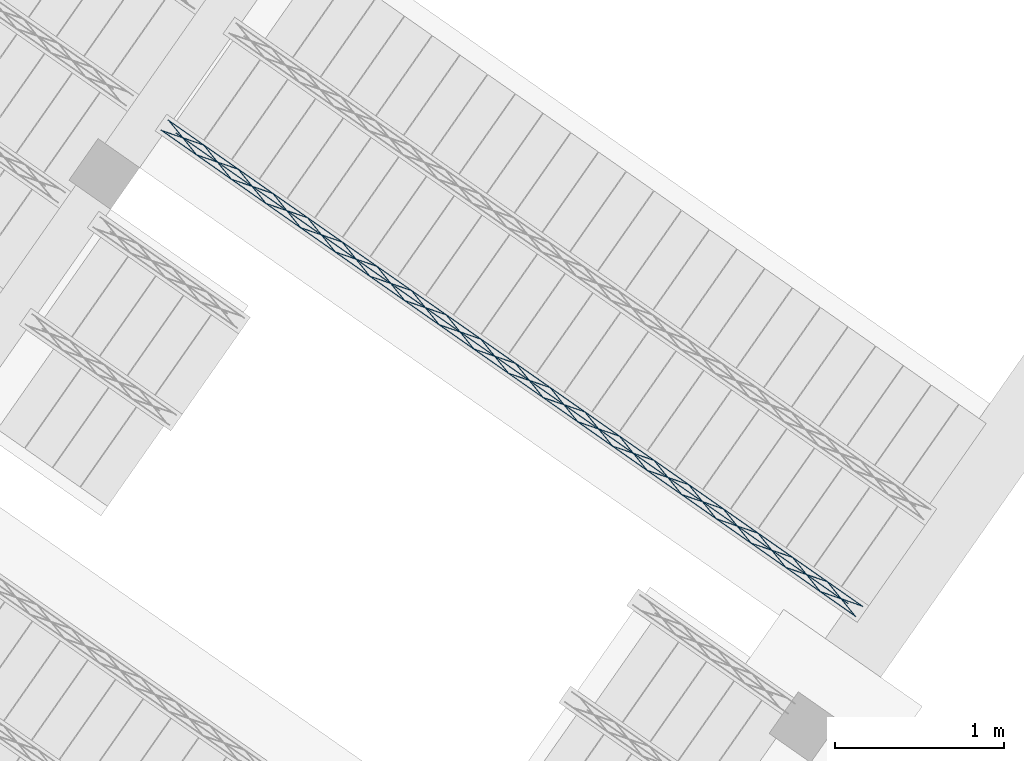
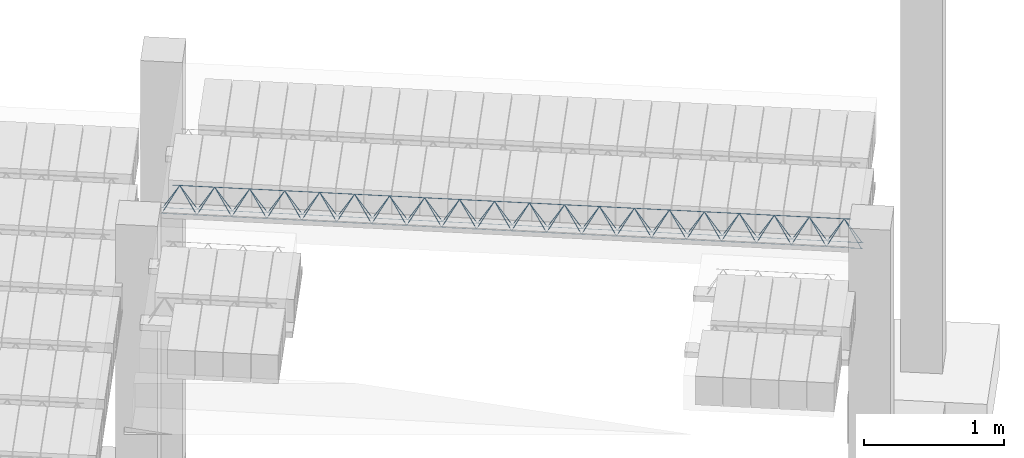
# One storey, part 46 of 80: 1 member.
"""IFC2X3 building model written with IfcOpenShell, lengths in metres."""

from ifc_helpers import new_model, entity, si_unit, converted_unit, derived_unit, direction, frame, origin, origin_2d_with_axis, place, context, subcontext, project, spatial, circle, extrude, type_object, element, save


model = new_model("IFC2X3")

# Units and contexts
model_context = context("Model", 3, precision=1e-05, world=origin(), true_north=direction((6.123031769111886e-17, 1.0)))
body_context = subcontext(model_context, "Body", "Model", "MODEL_VIEW")
ifc_project = project(units=[si_unit("LENGTHUNIT", "METRE"), si_unit("AREAUNIT", "SQUARE_METRE"), si_unit("VOLUMEUNIT", "CUBIC_METRE"), converted_unit("PLANEANGLEUNIT", "DEGREE", entity("IfcPlaneAngleMeasure", 0.017453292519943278), si_unit("PLANEANGLEUNIT", "RADIAN"), dimensions=[0, 0, 0, 0, 0, 0, 0]), si_unit("MASSUNIT", "GRAM", prefix="KILO"), derived_unit("MASSDENSITYUNIT", [(si_unit("MASSUNIT", "GRAM", prefix="KILO"), 1), (si_unit("LENGTHUNIT", "METRE"), -3)]), derived_unit("IONCONCENTRATIONUNIT", [(si_unit("MASSUNIT", "GRAM", prefix="KILO"), 1), (si_unit("LENGTHUNIT", "METRE"), -3)]), derived_unit("MOMENTOFINERTIAUNIT", [(si_unit("LENGTHUNIT", "METRE"), 4)]), si_unit("TIMEUNIT", "SECOND"), si_unit("FREQUENCYUNIT", "HERTZ"), si_unit("THERMODYNAMICTEMPERATUREUNIT", "DEGREE_CELSIUS"), derived_unit("THERMALTRANSMITTANCEUNIT", [(si_unit("MASSUNIT", "GRAM", prefix="KILO"), 1), (si_unit("THERMODYNAMICTEMPERATUREUNIT", "KELVIN"), -1), (si_unit("TIMEUNIT", "SECOND"), -3)]), derived_unit("THERMALCONDUCTANCEUNIT", [(si_unit("MASSUNIT", "GRAM", prefix="KILO"), 1), (si_unit("THERMODYNAMICTEMPERATUREUNIT", "KELVIN"), -1), (si_unit("TIMEUNIT", "SECOND"), -3), (si_unit("LENGTHUNIT", "METRE"), 1)]), derived_unit("VOLUMETRICFLOWRATEUNIT", [(si_unit("LENGTHUNIT", "METRE", prefix="DECI"), 3), (si_unit("TIMEUNIT", "SECOND"), -1)]), derived_unit("MASSFLOWRATEUNIT", [(si_unit("MASSUNIT", "GRAM", prefix="KILO"), 1), (si_unit("TIMEUNIT", "SECOND"), -1)]), derived_unit("ROTATIONALFREQUENCYUNIT", [(si_unit("TIMEUNIT", "SECOND"), -1)]), si_unit("ELECTRICCURRENTUNIT", "AMPERE"), si_unit("ELECTRICVOLTAGEUNIT", "VOLT"), si_unit("POWERUNIT", "WATT"), si_unit("FORCEUNIT", "NEWTON", prefix="KILO"), si_unit("ILLUMINANCEUNIT", "LUX"), si_unit("LUMINOUSFLUXUNIT", "LUMEN"), si_unit("LUMINOUSINTENSITYUNIT", "CANDELA"), si_unit("ENERGYUNIT", "JOULE"), derived_unit("USERDEFINED", [(si_unit("MASSUNIT", "GRAM", prefix="KILO"), -1), (si_unit("LENGTHUNIT", "METRE"), -2), (si_unit("TIMEUNIT", "SECOND"), 3), (si_unit("LUMINOUSFLUXUNIT", "LUMEN"), 1)]), derived_unit("USERDEFINED", [(si_unit("MASSUNIT", "GRAM", prefix="KILO"), 1), (si_unit("TIMEUNIT", "SECOND"), -3), (si_unit("LENGTHUNIT", "METRE"), 3), (si_unit("ELECTRICCURRENTUNIT", "AMPERE"), -2)]), derived_unit("SOUNDPOWERUNIT", [(si_unit("MASSUNIT", "GRAM", prefix="KILO"), 1), (si_unit("TIMEUNIT", "SECOND"), -3), (si_unit("LENGTHUNIT", "METRE"), 2)]), derived_unit("SOUNDPRESSUREUNIT", [(si_unit("MASSUNIT", "GRAM", prefix="KILO"), 1), (si_unit("LENGTHUNIT", "METRE"), -1), (si_unit("TIMEUNIT", "SECOND"), -2)]), derived_unit("LINEARVELOCITYUNIT", [(si_unit("LENGTHUNIT", "METRE"), 1), (si_unit("TIMEUNIT", "SECOND"), -1)]), si_unit("PRESSUREUNIT", "PASCAL"), derived_unit("USERDEFINED", [(si_unit("MASSUNIT", "GRAM", prefix="KILO"), 1), (si_unit("LENGTHUNIT", "METRE"), -2), (si_unit("TIMEUNIT", "SECOND"), -2)]), derived_unit("LINEARFORCEUNIT", [(si_unit("MASSUNIT", "GRAM", prefix="KILO"), 1), (si_unit("TIMEUNIT", "SECOND"), -2)]), derived_unit("PLANARFORCEUNIT", [(si_unit("MASSUNIT", "GRAM", prefix="KILO"), 1), (si_unit("LENGTHUNIT", "METRE"), -1), (si_unit("TIMEUNIT", "SECOND"), -2)]), derived_unit("SPECIFICHEATCAPACITYUNIT", [(si_unit("THERMODYNAMICTEMPERATUREUNIT", "KELVIN"), -1), (si_unit("LENGTHUNIT", "METRE"), 2), (si_unit("TIMEUNIT", "SECOND"), -2)]), derived_unit("HEATFLUXDENSITYUNIT", [(si_unit("MASSUNIT", "GRAM", prefix="KILO"), 1), (si_unit("TIMEUNIT", "SECOND"), -3)]), derived_unit("HEATINGVALUEUNIT", [(si_unit("LENGTHUNIT", "METRE"), 2), (si_unit("TIMEUNIT", "SECOND"), -2)]), derived_unit("VAPORPERMEABILITYUNIT", [(si_unit("LENGTHUNIT", "METRE"), -1), (si_unit("TIMEUNIT", "SECOND"), 1)]), derived_unit("DYNAMICVISCOSITYUNIT", [(si_unit("MASSUNIT", "GRAM", prefix="KILO"), 1), (si_unit("TIMEUNIT", "SECOND"), -1), (si_unit("LENGTHUNIT", "METRE"), -1)]), derived_unit("THERMALEXPANSIONCOEFFICIENTUNIT", [(si_unit("THERMODYNAMICTEMPERATUREUNIT", "KELVIN"), -1)]), derived_unit("MODULUSOFELASTICITYUNIT", [(si_unit("MASSUNIT", "GRAM", prefix="KILO"), 1), (si_unit("LENGTHUNIT", "METRE"), -1), (si_unit("TIMEUNIT", "SECOND"), -2)]), derived_unit("ISOTHERMALMOISTURECAPACITYUNIT", [(si_unit("MASSUNIT", "GRAM", prefix="KILO"), -1), (si_unit("LENGTHUNIT", "METRE"), 3)]), derived_unit("MOISTUREDIFFUSIVITYUNIT", [(si_unit("TIMEUNIT", "SECOND"), -1), (si_unit("LENGTHUNIT", "METRE"), 2)]), derived_unit("MASSPERLENGTHUNIT", [(si_unit("MASSUNIT", "GRAM", prefix="KILO"), 1), (si_unit("LENGTHUNIT", "METRE"), -1)]), derived_unit("THERMALRESISTANCEUNIT", [(si_unit("MASSUNIT", "GRAM", prefix="KILO"), -1), (si_unit("TIMEUNIT", "SECOND"), 3), (si_unit("THERMODYNAMICTEMPERATUREUNIT", "KELVIN"), 1)]), derived_unit("ACCELERATIONUNIT", [(si_unit("LENGTHUNIT", "METRE"), 1), (si_unit("TIMEUNIT", "SECOND"), -2)]), derived_unit("ANGULARVELOCITYUNIT", [(si_unit("TIMEUNIT", "SECOND"), -1), (si_unit("PLANEANGLEUNIT", "RADIAN"), 1)]), derived_unit("LINEARSTIFFNESSUNIT", [(si_unit("MASSUNIT", "GRAM", prefix="KILO"), 1), (si_unit("TIMEUNIT", "SECOND"), -2)]), derived_unit("WARPINGCONSTANTUNIT", [(si_unit("LENGTHUNIT", "METRE"), 6)]), derived_unit("LINEARMOMENTUNIT", [(si_unit("MASSUNIT", "GRAM", prefix="KILO"), 1), (si_unit("LENGTHUNIT", "METRE"), 1), (si_unit("TIMEUNIT", "SECOND"), -2)]), derived_unit("TORQUEUNIT", [(si_unit("MASSUNIT", "GRAM", prefix="KILO"), 1), (si_unit("LENGTHUNIT", "METRE"), 2), (si_unit("TIMEUNIT", "SECOND"), -2)])], contexts=[model_context])

# Site, building, storey
site_placement = place(None, origin())
site = spatial("IfcSite", under=ifc_project, at=site_placement, Name="Default", CompositionType="ELEMENT")
building_placement = place(site_placement, origin())
building = spatial("IfcBuilding", under=site, at=building_placement, CompositionType="ELEMENT")
storey_placement = place(building_placement, frame((0.0, 0.0, 95.94)))
storey = spatial("IfcBuildingStorey", under=building, at=storey_placement, Name="PB", CompositionType="ELEMENT", Elevation=95.94)

# Member
member_type = type_object("IfcMemberType", Name="Celosía (Vigueta 1 - Paño 15)", PredefinedType="NOTDEFINED")
member_placement = place(storey_placement, origin())
element("IfcMember", 1, at=member_placement, inside=storey, type_object=member_type, Name="Celosía (Vigueta 1 - Paño 15)", context=body_context, shape_type="SweptSolid", body=[
    extrude(circle(Radius=0.0025, at=origin_2d_with_axis()), frame((6.163693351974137, 7.787239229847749, 3.3049999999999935), z_axis=(0.8191520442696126, -0.5735764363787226, 0.0), x_axis=(-0.5735764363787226, -0.8191520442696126, 0.0)), (0.0, 0.0, 1.0), 5.017554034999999),
    extrude(circle(Radius=0.0025, at=origin_2d_with_axis()), frame((10.225855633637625, 4.986830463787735, 3.5299999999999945), z_axis=(-0.8191520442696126, 0.5735764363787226, 0.0), x_axis=(-0.5735764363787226, -0.8191520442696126, 0.0)), (0.0, 0.0, 1.0), 4.849999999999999),
    extrude(circle(Radius=0.0025, at=origin_2d_with_axis()), frame((10.26664328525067, 4.914322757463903, 3.3049999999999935), z_axis=(-0.3145304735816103, 0.389334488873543, 0.8657304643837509), x_axis=(-0.7778747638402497, -0.6284193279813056, 0.0)), (0.0, 0.0, 1.0), 0.2598961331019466),
    extrude(circle(Radius=0.0025, at=origin_2d_with_axis()), frame((10.061855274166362, 5.057716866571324, 3.3049999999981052), z_axis=(0.47343050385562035, -0.1624017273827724, 0.8657304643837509), x_axis=(-0.3244721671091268, -0.9458952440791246, 0.0)), (0.0, 0.0, 1.0), 0.25989613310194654),
    extrude(circle(Radius=0.0025, at=origin_2d_with_axis()), frame((10.061855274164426, 5.057716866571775, 3.3049999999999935), z_axis=(-0.3145304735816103, 0.389334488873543, 0.8657304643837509), x_axis=(-0.7778747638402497, -0.6284193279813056, 0.0)), (0.0, 0.0, 1.0), 0.2598961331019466),
    extrude(circle(Radius=0.0025, at=origin_2d_with_axis()), frame((9.857067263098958, 5.201110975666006, 3.3049999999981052), z_axis=(0.47343050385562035, -0.1624017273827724, 0.8657304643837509), x_axis=(-0.3244721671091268, -0.9458952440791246, 0.0)), (0.0, 0.0, 1.0), 0.25989613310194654),
    extrude(circle(Radius=0.0025, at=origin_2d_with_axis()), frame((9.857067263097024, 5.201110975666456, 3.3049999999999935), z_axis=(-0.3145304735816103, 0.389334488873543, 0.8657304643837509), x_axis=(-0.7778747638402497, -0.6284193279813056, 0.0)), (0.0, 0.0, 1.0), 0.2598961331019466),
    extrude(circle(Radius=0.0025, at=origin_2d_with_axis()), frame((9.652279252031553, 5.344505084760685, 3.3049999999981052), z_axis=(0.47343050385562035, -0.1624017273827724, 0.8657304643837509), x_axis=(-0.3244721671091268, -0.9458952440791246, 0.0)), (0.0, 0.0, 1.0), 0.25989613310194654),
    extrude(circle(Radius=0.0025, at=origin_2d_with_axis()), frame((9.65227925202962, 5.3445050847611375, 3.3049999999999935), z_axis=(-0.3145304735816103, 0.389334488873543, 0.8657304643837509), x_axis=(-0.7778747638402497, -0.6284193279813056, 0.0)), (0.0, 0.0, 1.0), 0.2598961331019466),
    extrude(circle(Radius=0.0025, at=origin_2d_with_axis()), frame((9.447491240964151, 5.487899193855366, 3.3049999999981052), z_axis=(0.47343050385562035, -0.1624017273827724, 0.8657304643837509), x_axis=(-0.3244721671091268, -0.9458952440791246, 0.0)), (0.0, 0.0, 1.0), 0.25989613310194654),
    extrude(circle(Radius=0.0025, at=origin_2d_with_axis()), frame((9.447491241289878, 5.4878991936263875, 3.3049999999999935), z_axis=(-0.3145304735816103, 0.389334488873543, 0.8657304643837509), x_axis=(-0.7778747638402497, -0.6284193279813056, 0.0)), (0.0, 0.0, 1.0), 0.2598961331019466),
    extrude(circle(Radius=0.0025, at=origin_2d_with_axis()), frame((9.242703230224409, 5.631293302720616, 3.3049999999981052), z_axis=(0.47343050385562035, -0.1624017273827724, 0.8657304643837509), x_axis=(-0.3244721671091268, -0.9458952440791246, 0.0)), (0.0, 0.0, 1.0), 0.25989613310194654),
    extrude(circle(Radius=0.0025, at=origin_2d_with_axis()), frame((9.242703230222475, 5.631293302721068, 3.3049999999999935), z_axis=(-0.3145304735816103, 0.389334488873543, 0.8657304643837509), x_axis=(-0.7778747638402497, -0.6284193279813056, 0.0)), (0.0, 0.0, 1.0), 0.2598961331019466),
    extrude(circle(Radius=0.0025, at=origin_2d_with_axis()), frame((9.037915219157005, 5.7746874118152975, 3.3049999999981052), z_axis=(0.47343050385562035, -0.1624017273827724, 0.8657304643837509), x_axis=(-0.3244721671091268, -0.9458952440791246, 0.0)), (0.0, 0.0, 1.0), 0.25989613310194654),
    extrude(circle(Radius=0.0025, at=origin_2d_with_axis()), frame((9.037915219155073, 5.774687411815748, 3.3049999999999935), z_axis=(-0.3145304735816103, 0.389334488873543, 0.8657304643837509), x_axis=(-0.7778747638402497, -0.6284193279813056, 0.0)), (0.0, 0.0, 1.0), 0.2598961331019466),
    extrude(circle(Radius=0.0025, at=origin_2d_with_axis()), frame((8.833127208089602, 5.918081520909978, 3.3049999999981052), z_axis=(0.47343050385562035, -0.1624017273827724, 0.8657304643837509), x_axis=(-0.3244721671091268, -0.9458952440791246, 0.0)), (0.0, 0.0, 1.0), 0.25989613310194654),
    extrude(circle(Radius=0.0025, at=origin_2d_with_axis()), frame((8.833127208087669, 5.918081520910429, 3.3049999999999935), z_axis=(-0.3145304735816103, 0.389334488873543, 0.8657304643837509), x_axis=(-0.7778747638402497, -0.6284193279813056, 0.0)), (0.0, 0.0, 1.0), 0.2598961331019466),
    extrude(circle(Radius=0.0025, at=origin_2d_with_axis()), frame((8.6283391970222, 6.061475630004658, 3.3049999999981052), z_axis=(0.47343050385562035, -0.1624017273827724, 0.8657304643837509), x_axis=(-0.3244721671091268, -0.9458952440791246, 0.0)), (0.0, 0.0, 1.0), 0.25989613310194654),
    extrude(circle(Radius=0.0025, at=origin_2d_with_axis()), frame((8.628339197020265, 6.06147563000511, 3.3049999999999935), z_axis=(-0.3145304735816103, 0.389334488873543, 0.8657304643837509), x_axis=(-0.7778747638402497, -0.6284193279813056, 0.0)), (0.0, 0.0, 1.0), 0.2598961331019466),
    extrude(circle(Radius=0.0025, at=origin_2d_with_axis()), frame((8.423551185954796, 6.204869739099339, 3.3049999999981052), z_axis=(0.47343050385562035, -0.1624017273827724, 0.8657304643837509), x_axis=(-0.3244721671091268, -0.9458952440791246, 0.0)), (0.0, 0.0, 1.0), 0.25989613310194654),
    extrude(circle(Radius=0.0025, at=origin_2d_with_axis()), frame((8.423551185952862, 6.20486973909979, 3.3049999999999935), z_axis=(-0.3145304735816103, 0.389334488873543, 0.8657304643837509), x_axis=(-0.7778747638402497, -0.6284193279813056, 0.0)), (0.0, 0.0, 1.0), 0.2598961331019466),
    extrude(circle(Radius=0.0025, at=origin_2d_with_axis()), frame((8.218763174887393, 6.34826384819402, 3.3049999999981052), z_axis=(0.47343050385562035, -0.1624017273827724, 0.8657304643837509), x_axis=(-0.3244721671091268, -0.9458952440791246, 0.0)), (0.0, 0.0, 1.0), 0.25989613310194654),
    extrude(circle(Radius=0.0025, at=origin_2d_with_axis()), frame((8.21876317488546, 6.348263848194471, 3.3049999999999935), z_axis=(-0.3145304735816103, 0.389334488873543, 0.8657304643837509), x_axis=(-0.7778747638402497, -0.6284193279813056, 0.0)), (0.0, 0.0, 1.0), 0.2598961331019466),
    extrude(circle(Radius=0.0025, at=origin_2d_with_axis()), frame((8.013975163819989, 6.4916579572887, 3.3049999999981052), z_axis=(0.47343050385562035, -0.1624017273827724, 0.8657304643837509), x_axis=(-0.3244721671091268, -0.9458952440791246, 0.0)), (0.0, 0.0, 1.0), 0.25989613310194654),
    extrude(circle(Radius=0.0025, at=origin_2d_with_axis()), frame((8.013975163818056, 6.491657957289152, 3.3049999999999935), z_axis=(-0.3145304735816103, 0.389334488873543, 0.8657304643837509), x_axis=(-0.7778747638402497, -0.6284193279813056, 0.0)), (0.0, 0.0, 1.0), 0.2598961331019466),
    extrude(circle(Radius=0.0025, at=origin_2d_with_axis()), frame((7.809187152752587, 6.6350520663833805, 3.3049999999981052), z_axis=(0.47343050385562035, -0.1624017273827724, 0.8657304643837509), x_axis=(-0.3244721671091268, -0.9458952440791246, 0.0)), (0.0, 0.0, 1.0), 0.25989613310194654),
    extrude(circle(Radius=0.0025, at=origin_2d_with_axis()), frame((7.809187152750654, 6.635052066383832, 3.3049999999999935), z_axis=(-0.3145304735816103, 0.389334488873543, 0.8657304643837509), x_axis=(-0.7778747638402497, -0.6284193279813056, 0.0)), (0.0, 0.0, 1.0), 0.2598961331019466),
    extrude(circle(Radius=0.0025, at=origin_2d_with_axis()), frame((7.604399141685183, 6.778446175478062, 3.3049999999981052), z_axis=(0.47343050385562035, -0.1624017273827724, 0.8657304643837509), x_axis=(-0.3244721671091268, -0.9458952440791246, 0.0)), (0.0, 0.0, 1.0), 0.25989613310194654),
    extrude(circle(Radius=0.0025, at=origin_2d_with_axis()), frame((7.60439914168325, 6.778446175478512, 3.3049999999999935), z_axis=(-0.3145304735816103, 0.389334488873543, 0.8657304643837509), x_axis=(-0.7778747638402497, -0.6284193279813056, 0.0)), (0.0, 0.0, 1.0), 0.2598961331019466),
    extrude(circle(Radius=0.0025, at=origin_2d_with_axis()), frame((7.399611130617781, 6.921840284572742, 3.3049999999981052), z_axis=(0.47343050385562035, -0.1624017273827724, 0.8657304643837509), x_axis=(-0.3244721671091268, -0.9458952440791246, 0.0)), (0.0, 0.0, 1.0), 0.25989613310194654),
    extrude(circle(Radius=0.0025, at=origin_2d_with_axis()), frame((7.399611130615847, 6.921840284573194, 3.3049999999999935), z_axis=(-0.3145304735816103, 0.389334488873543, 0.8657304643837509), x_axis=(-0.7778747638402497, -0.6284193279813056, 0.0)), (0.0, 0.0, 1.0), 0.2598961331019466),
    extrude(circle(Radius=0.0025, at=origin_2d_with_axis()), frame((7.194823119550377, 7.0652343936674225, 3.3049999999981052), z_axis=(0.47343050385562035, -0.1624017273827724, 0.8657304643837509), x_axis=(-0.3244721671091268, -0.9458952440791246, 0.0)), (0.0, 0.0, 1.0), 0.25989613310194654),
    extrude(circle(Radius=0.0025, at=origin_2d_with_axis()), frame((7.1948231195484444, 7.065234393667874, 3.3049999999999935), z_axis=(-0.3145304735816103, 0.389334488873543, 0.8657304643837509), x_axis=(-0.7778747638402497, -0.6284193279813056, 0.0)), (0.0, 0.0, 1.0), 0.2598961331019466),
    extrude(circle(Radius=0.0025, at=origin_2d_with_axis()), frame((6.990035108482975, 7.208628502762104, 3.3049999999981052), z_axis=(0.47343050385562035, -0.1624017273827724, 0.8657304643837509), x_axis=(-0.3244721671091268, -0.9458952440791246, 0.0)), (0.0, 0.0, 1.0), 0.25989613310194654),
    extrude(circle(Radius=0.0025, at=origin_2d_with_axis()), frame((6.99003510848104, 7.208628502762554, 3.3049999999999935), z_axis=(-0.3145304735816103, 0.389334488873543, 0.8657304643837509), x_axis=(-0.7778747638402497, -0.6284193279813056, 0.0)), (0.0, 0.0, 1.0), 0.2598961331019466),
    extrude(circle(Radius=0.0025, at=origin_2d_with_axis()), frame((6.785247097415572, 7.352022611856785, 3.3049999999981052), z_axis=(0.47343050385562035, -0.1624017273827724, 0.8657304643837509), x_axis=(-0.3244721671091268, -0.9458952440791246, 0.0)), (0.0, 0.0, 1.0), 0.25989613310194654),
    extrude(circle(Radius=0.0025, at=origin_2d_with_axis()), frame((6.785247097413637, 7.352022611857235, 3.3049999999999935), z_axis=(-0.3145304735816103, 0.389334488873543, 0.8657304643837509), x_axis=(-0.7778747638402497, -0.6284193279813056, 0.0)), (0.0, 0.0, 1.0), 0.2598961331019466),
    extrude(circle(Radius=0.0025, at=origin_2d_with_axis()), frame((6.580459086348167, 7.495416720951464, 3.3049999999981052), z_axis=(0.47343050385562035, -0.1624017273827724, 0.8657304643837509), x_axis=(-0.3244721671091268, -0.9458952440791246, 0.0)), (0.0, 0.0, 1.0), 0.25989613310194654),
    extrude(circle(Radius=0.0025, at=origin_2d_with_axis()), frame((6.580459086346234, 7.4954167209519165, 3.3049999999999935), z_axis=(-0.3145304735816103, 0.389334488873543, 0.8657304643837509), x_axis=(-0.7778747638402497, -0.6284193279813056, 0.0)), (0.0, 0.0, 1.0), 0.2598961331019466),
    extrude(circle(Radius=0.0025, at=origin_2d_with_axis()), frame((6.375671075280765, 7.638810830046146, 3.3049999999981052), z_axis=(0.47343050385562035, -0.1624017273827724, 0.8657304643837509), x_axis=(-0.3244721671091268, -0.9458952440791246, 0.0)), (0.0, 0.0, 1.0), 0.25989613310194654),
    extrude(circle(Radius=0.0025, at=origin_2d_with_axis()), frame((6.375671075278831, 7.638810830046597, 3.3049999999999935), z_axis=(-0.3145304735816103, 0.389334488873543, 0.8657304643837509), x_axis=(-0.7778747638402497, -0.6284193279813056, 0.0)), (0.0, 0.0, 1.0), 0.2598961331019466),
    extrude(circle(Radius=0.0025, at=origin_2d_with_axis()), frame((6.170883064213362, 7.782204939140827, 3.3049999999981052), z_axis=(0.47343050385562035, -0.1624017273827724, 0.8657304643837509), x_axis=(-0.3244721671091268, -0.9458952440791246, 0.0)), (0.0, 0.0, 1.0), 0.25989613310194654),
    extrude(circle(Radius=0.0025, at=origin_2d_with_axis()), frame((10.315130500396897, 4.968267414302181, 3.3049999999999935), z_axis=(-0.8191520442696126, 0.5735764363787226, 0.0), x_axis=(-0.5735764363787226, -0.8191520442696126, 0.0)), (0.0, 0.0, 1.0), 5.017554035),
    extrude(circle(Radius=0.0025, at=origin_2d_with_axis()), frame((10.307940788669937, 4.973301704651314, 3.3049999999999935), z_axis=(-0.47343050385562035, 0.1624017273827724, 0.8657304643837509), x_axis=(-0.3244721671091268, -0.9458952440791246, 0.0)), (0.0, 0.0, 1.0), 0.25989613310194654),
    extrude(circle(Radius=0.0025, at=origin_2d_with_axis()), frame((10.103152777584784, 5.116695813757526, 3.3049999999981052), z_axis=(0.3145304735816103, -0.389334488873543, 0.8657304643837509), x_axis=(-0.7778747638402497, -0.6284193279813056, 0.0)), (0.0, 0.0, 1.0), 0.2598961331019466),
    extrude(circle(Radius=0.0025, at=origin_2d_with_axis()), frame((10.103152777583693, 5.116695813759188, 3.3049999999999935), z_axis=(-0.47343050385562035, 0.1624017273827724, 0.8657304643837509), x_axis=(-0.3244721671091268, -0.9458952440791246, 0.0)), (0.0, 0.0, 1.0), 0.25989613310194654),
    extrude(circle(Radius=0.0025, at=origin_2d_with_axis()), frame((9.898364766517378, 5.260089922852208, 3.3049999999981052), z_axis=(0.3145304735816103, -0.389334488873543, 0.8657304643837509), x_axis=(-0.7778747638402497, -0.6284193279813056, 0.0)), (0.0, 0.0, 1.0), 0.2598961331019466),
    extrude(circle(Radius=0.0025, at=origin_2d_with_axis()), frame((9.898364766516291, 5.260089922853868, 3.3049999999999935), z_axis=(-0.47343050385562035, 0.1624017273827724, 0.8657304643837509), x_axis=(-0.3244721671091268, -0.9458952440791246, 0.0)), (0.0, 0.0, 1.0), 0.25989613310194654),
    extrude(circle(Radius=0.0025, at=origin_2d_with_axis()), frame((9.693576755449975, 5.403484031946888, 3.3049999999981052), z_axis=(0.3145304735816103, -0.389334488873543, 0.8657304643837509), x_axis=(-0.7778747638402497, -0.6284193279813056, 0.0)), (0.0, 0.0, 1.0), 0.2598961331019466),
    extrude(circle(Radius=0.0025, at=origin_2d_with_axis()), frame((9.693576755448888, 5.403484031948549, 3.3049999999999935), z_axis=(-0.47343050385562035, 0.1624017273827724, 0.8657304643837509), x_axis=(-0.3244721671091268, -0.9458952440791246, 0.0)), (0.0, 0.0, 1.0), 0.25989613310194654),
    extrude(circle(Radius=0.0025, at=origin_2d_with_axis()), frame((9.488788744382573, 5.546878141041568, 3.3049999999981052), z_axis=(0.3145304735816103, -0.389334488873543, 0.8657304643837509), x_axis=(-0.7778747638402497, -0.6284193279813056, 0.0)), (0.0, 0.0, 1.0), 0.2598961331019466),
    extrude(circle(Radius=0.0025, at=origin_2d_with_axis()), frame((9.488788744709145, 5.546878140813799, 3.3049999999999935), z_axis=(-0.47343050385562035, 0.1624017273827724, 0.8657304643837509), x_axis=(-0.3244721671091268, -0.9458952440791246, 0.0)), (0.0, 0.0, 1.0), 0.25989613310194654),
    extrude(circle(Radius=0.0025, at=origin_2d_with_axis()), frame((9.28400073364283, 5.690272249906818, 3.3049999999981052), z_axis=(0.3145304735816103, -0.389334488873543, 0.8657304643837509), x_axis=(-0.7778747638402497, -0.6284193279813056, 0.0)), (0.0, 0.0, 1.0), 0.2598961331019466),
    extrude(circle(Radius=0.0025, at=origin_2d_with_axis()), frame((9.284000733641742, 5.69027224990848, 3.3049999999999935), z_axis=(-0.47343050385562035, 0.1624017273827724, 0.8657304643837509), x_axis=(-0.3244721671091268, -0.9458952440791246, 0.0)), (0.0, 0.0, 1.0), 0.25989613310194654),
    extrude(circle(Radius=0.0025, at=origin_2d_with_axis()), frame((9.079212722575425, 5.8336663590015, 3.3049999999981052), z_axis=(0.3145304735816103, -0.389334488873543, 0.8657304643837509), x_axis=(-0.7778747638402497, -0.6284193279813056, 0.0)), (0.0, 0.0, 1.0), 0.2598961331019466),
    extrude(circle(Radius=0.0025, at=origin_2d_with_axis()), frame((9.07921272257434, 5.83366635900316, 3.3049999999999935), z_axis=(-0.47343050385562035, 0.1624017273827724, 0.8657304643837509), x_axis=(-0.3244721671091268, -0.9458952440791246, 0.0)), (0.0, 0.0, 1.0), 0.25989613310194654),
    extrude(circle(Radius=0.0025, at=origin_2d_with_axis()), frame((8.874424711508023, 5.97706046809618, 3.3049999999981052), z_axis=(0.3145304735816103, -0.389334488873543, 0.8657304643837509), x_axis=(-0.7778747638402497, -0.6284193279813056, 0.0)), (0.0, 0.0, 1.0), 0.2598961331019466),
    extrude(circle(Radius=0.0025, at=origin_2d_with_axis()), frame((8.874424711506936, 5.977060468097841, 3.3049999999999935), z_axis=(-0.47343050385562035, 0.1624017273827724, 0.8657304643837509), x_axis=(-0.3244721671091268, -0.9458952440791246, 0.0)), (0.0, 0.0, 1.0), 0.25989613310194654),
    extrude(circle(Radius=0.0025, at=origin_2d_with_axis()), frame((8.66963670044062, 6.120454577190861, 3.3049999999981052), z_axis=(0.3145304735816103, -0.389334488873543, 0.8657304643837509), x_axis=(-0.7778747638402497, -0.6284193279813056, 0.0)), (0.0, 0.0, 1.0), 0.2598961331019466),
    extrude(circle(Radius=0.0025, at=origin_2d_with_axis()), frame((8.669636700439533, 6.120454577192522, 3.3049999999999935), z_axis=(-0.47343050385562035, 0.1624017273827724, 0.8657304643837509), x_axis=(-0.3244721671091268, -0.9458952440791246, 0.0)), (0.0, 0.0, 1.0), 0.25989613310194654),
    extrude(circle(Radius=0.0025, at=origin_2d_with_axis()), frame((8.464848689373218, 6.263848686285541, 3.3049999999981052), z_axis=(0.3145304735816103, -0.389334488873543, 0.8657304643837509), x_axis=(-0.7778747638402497, -0.6284193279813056, 0.0)), (0.0, 0.0, 1.0), 0.2598961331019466),
    extrude(circle(Radius=0.0025, at=origin_2d_with_axis()), frame((8.46484868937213, 6.263848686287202, 3.3049999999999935), z_axis=(-0.47343050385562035, 0.1624017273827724, 0.8657304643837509), x_axis=(-0.3244721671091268, -0.9458952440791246, 0.0)), (0.0, 0.0, 1.0), 0.25989613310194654),
    extrude(circle(Radius=0.0025, at=origin_2d_with_axis()), frame((8.260060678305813, 6.407242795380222, 3.3049999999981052), z_axis=(0.3145304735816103, -0.389334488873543, 0.8657304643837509), x_axis=(-0.7778747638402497, -0.6284193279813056, 0.0)), (0.0, 0.0, 1.0), 0.2598961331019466),
    extrude(circle(Radius=0.0025, at=origin_2d_with_axis()), frame((8.260060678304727, 6.407242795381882, 3.3049999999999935), z_axis=(-0.47343050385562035, 0.1624017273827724, 0.8657304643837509), x_axis=(-0.3244721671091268, -0.9458952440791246, 0.0)), (0.0, 0.0, 1.0), 0.25989613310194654),
    extrude(circle(Radius=0.0025, at=origin_2d_with_axis()), frame((8.05527266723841, 6.550636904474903, 3.3049999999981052), z_axis=(0.3145304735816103, -0.389334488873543, 0.8657304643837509), x_axis=(-0.7778747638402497, -0.6284193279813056, 0.0)), (0.0, 0.0, 1.0), 0.2598961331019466),
    extrude(circle(Radius=0.0025, at=origin_2d_with_axis()), frame((8.055272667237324, 6.550636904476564, 3.3049999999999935), z_axis=(-0.47343050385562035, 0.1624017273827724, 0.8657304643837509), x_axis=(-0.3244721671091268, -0.9458952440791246, 0.0)), (0.0, 0.0, 1.0), 0.25989613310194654),
    extrude(circle(Radius=0.0025, at=origin_2d_with_axis()), frame((7.850484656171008, 6.694031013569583, 3.3049999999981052), z_axis=(0.3145304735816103, -0.389334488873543, 0.8657304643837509), x_axis=(-0.7778747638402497, -0.6284193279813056, 0.0)), (0.0, 0.0, 1.0), 0.2598961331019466),
    extrude(circle(Radius=0.0025, at=origin_2d_with_axis()), frame((7.850484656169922, 6.694031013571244, 3.3049999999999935), z_axis=(-0.47343050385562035, 0.1624017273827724, 0.8657304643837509), x_axis=(-0.3244721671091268, -0.9458952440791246, 0.0)), (0.0, 0.0, 1.0), 0.25989613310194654),
    extrude(circle(Radius=0.0025, at=origin_2d_with_axis()), frame((7.6456966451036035, 6.837425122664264, 3.3049999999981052), z_axis=(0.3145304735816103, -0.389334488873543, 0.8657304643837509), x_axis=(-0.7778747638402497, -0.6284193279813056, 0.0)), (0.0, 0.0, 1.0), 0.2598961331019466),
    extrude(circle(Radius=0.0025, at=origin_2d_with_axis()), frame((7.645696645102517, 6.837425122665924, 3.3049999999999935), z_axis=(-0.47343050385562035, 0.1624017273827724, 0.8657304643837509), x_axis=(-0.3244721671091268, -0.9458952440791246, 0.0)), (0.0, 0.0, 1.0), 0.25989613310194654),
    extrude(circle(Radius=0.0025, at=origin_2d_with_axis()), frame((7.440908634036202, 6.980819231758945, 3.3049999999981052), z_axis=(0.3145304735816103, -0.389334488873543, 0.8657304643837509), x_axis=(-0.7778747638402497, -0.6284193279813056, 0.0)), (0.0, 0.0, 1.0), 0.2598961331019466),
    extrude(circle(Radius=0.0025, at=origin_2d_with_axis()), frame((7.4409086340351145, 6.980819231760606, 3.3049999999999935), z_axis=(-0.47343050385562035, 0.1624017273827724, 0.8657304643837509), x_axis=(-0.3244721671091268, -0.9458952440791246, 0.0)), (0.0, 0.0, 1.0), 0.25989613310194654),
    extrude(circle(Radius=0.0025, at=origin_2d_with_axis()), frame((7.236120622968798, 7.124213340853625, 3.3049999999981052), z_axis=(0.3145304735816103, -0.389334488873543, 0.8657304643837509), x_axis=(-0.7778747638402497, -0.6284193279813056, 0.0)), (0.0, 0.0, 1.0), 0.2598961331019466),
    extrude(circle(Radius=0.0025, at=origin_2d_with_axis()), frame((7.236120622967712, 7.124213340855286, 3.3049999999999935), z_axis=(-0.47343050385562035, 0.1624017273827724, 0.8657304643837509), x_axis=(-0.3244721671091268, -0.9458952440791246, 0.0)), (0.0, 0.0, 1.0), 0.25989613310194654),
    extrude(circle(Radius=0.0025, at=origin_2d_with_axis()), frame((7.031332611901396, 7.267607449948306, 3.3049999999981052), z_axis=(0.3145304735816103, -0.389334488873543, 0.8657304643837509), x_axis=(-0.7778747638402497, -0.6284193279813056, 0.0)), (0.0, 0.0, 1.0), 0.2598961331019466),
    extrude(circle(Radius=0.0025, at=origin_2d_with_axis()), frame((7.031332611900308, 7.267607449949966, 3.3049999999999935), z_axis=(-0.47343050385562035, 0.1624017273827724, 0.8657304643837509), x_axis=(-0.3244721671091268, -0.9458952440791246, 0.0)), (0.0, 0.0, 1.0), 0.25989613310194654),
    extrude(circle(Radius=0.0025, at=origin_2d_with_axis()), frame((6.8265446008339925, 7.411001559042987, 3.3049999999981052), z_axis=(0.3145304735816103, -0.389334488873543, 0.8657304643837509), x_axis=(-0.7778747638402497, -0.6284193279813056, 0.0)), (0.0, 0.0, 1.0), 0.2598961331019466),
    extrude(circle(Radius=0.0025, at=origin_2d_with_axis()), frame((6.826544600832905, 7.411001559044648, 3.3049999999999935), z_axis=(-0.47343050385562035, 0.1624017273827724, 0.8657304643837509), x_axis=(-0.3244721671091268, -0.9458952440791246, 0.0)), (0.0, 0.0, 1.0), 0.25989613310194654),
    extrude(circle(Radius=0.0025, at=origin_2d_with_axis()), frame((6.621756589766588, 7.5543956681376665, 3.3049999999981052), z_axis=(0.3145304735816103, -0.389334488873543, 0.8657304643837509), x_axis=(-0.7778747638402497, -0.6284193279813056, 0.0)), (0.0, 0.0, 1.0), 0.2598961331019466),
    extrude(circle(Radius=0.0025, at=origin_2d_with_axis()), frame((6.621756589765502, 7.554395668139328, 3.3049999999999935), z_axis=(-0.47343050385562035, 0.1624017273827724, 0.8657304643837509), x_axis=(-0.3244721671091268, -0.9458952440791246, 0.0)), (0.0, 0.0, 1.0), 0.25989613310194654),
    extrude(circle(Radius=0.0025, at=origin_2d_with_axis()), frame((6.416968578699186, 7.697789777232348, 3.3049999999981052), z_axis=(0.3145304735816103, -0.389334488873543, 0.8657304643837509), x_axis=(-0.7778747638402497, -0.6284193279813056, 0.0)), (0.0, 0.0, 1.0), 0.2598961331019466),
    extrude(circle(Radius=0.0025, at=origin_2d_with_axis()), frame((6.416968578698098, 7.697789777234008, 3.3049999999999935), z_axis=(-0.47343050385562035, 0.1624017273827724, 0.8657304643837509), x_axis=(-0.3244721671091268, -0.9458952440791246, 0.0)), (0.0, 0.0, 1.0), 0.25989613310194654),
    extrude(circle(Radius=0.0025, at=origin_2d_with_axis()), frame((6.2121805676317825, 7.841183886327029, 3.3049999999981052), z_axis=(0.3145304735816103, -0.389334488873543, 0.8657304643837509), x_axis=(-0.7778747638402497, -0.6284193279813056, 0.0)), (0.0, 0.0, 1.0), 0.2598961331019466),
])

save(model, "model.ifc")
